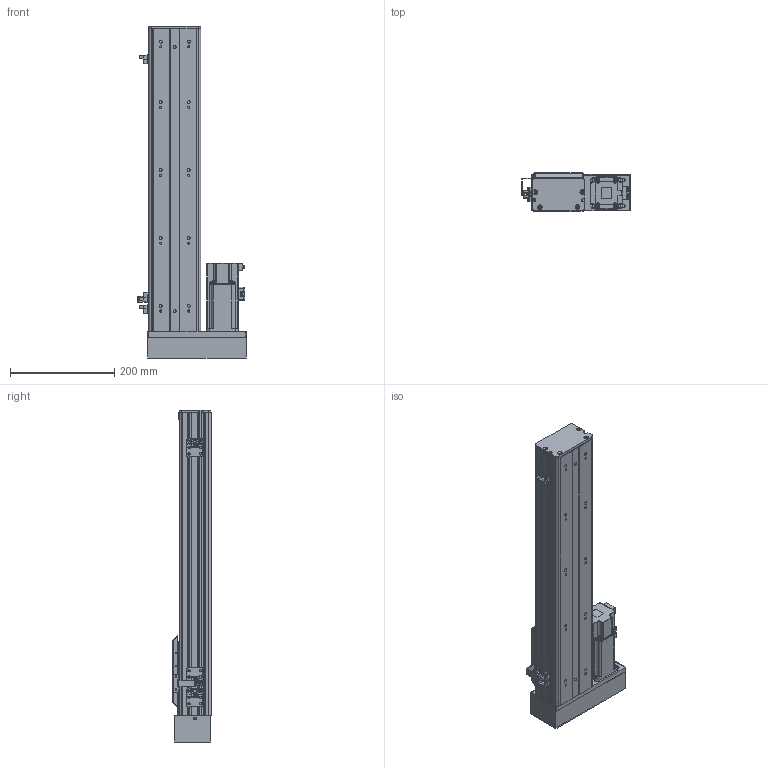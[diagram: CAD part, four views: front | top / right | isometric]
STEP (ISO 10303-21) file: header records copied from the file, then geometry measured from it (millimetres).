
FILE_DESCRIPTION (( 'STEP AP203' ), '1' );
FILE_NAME ('BOSW100-400-1610-1P-LM-M400W-O-S3（方程式2016）.step', '2020-10-10T06:54:27', ( '' ), ( '' ), 'SwSTEP 2.0', 'SolidWorks 2016', '' );
FILE_SCHEMA (( 'CONFIG_CONTROL_DESIGN' ));
Length unit declared in the file: millimetre
Products named in the file (14): 俋境嫖覜嘐隅啣; BOSW-100-綴裔啣; BOSW&TW-100-詩湍揤沭(陔賦凳); BOSW-100-1P-DM-宽轨-侧板-400客户图纸; BOSW&TW-100-1P-賑雄釱欶; boS-100-LM&RM-三菱M400W马达板-宽轨; BOSW-100-1P-DM-400諦誧芞; AIMS(W)-100-LM&RM-肮祭謫欶; BOSW-100-1P-DM-宽轨-钢带-400客户图纸; BOSW&TW-100-俋离覜茼え; S400W(SMA-L040); BOSW100-400-1610-1P-LM-M400W-O-S3（方程式2016）; 新结构AIMSW-100-1P-宽&高轨共用-滑动座上组件; 放大器内置U型微型光电传感器PM-L65
Assembly tree (19 placements, depth 2):
  BOSW100-400-1610-1P-LM-M400W-O-S3（方程式2016）
    BOSW-100-1P-DM-400諦誧芞
    BOSW-100-綴裔啣
    新结构AIMSW-100-1P-宽&高轨共用-滑动座上组件
    S400W(SMA-L040)
    BOSW&TW-100-詩湍揤沭(陔賦凳)  x2
    BOSW&TW-100-1P-賑雄釱欶
    BOSW&TW-100-俋离覜茼え
    俋境嫖覜嘐隅啣  x3
    放大器内置U型微型光电传感器PM-L65  x3
    BOSW-100-1P-DM-宽轨-侧板-400客户图纸  x2
    BOSW-100-1P-DM-宽轨-钢带-400客户图纸
    AIMS(W)-100-LM&RM-肮祭謫欶
    boS-100-LM&RM-三菱M400W马达板-宽轨
Bounding box: 207.9 x 75 x 636 mm (x, y, z)
Volume: 1539929.8 mm3; surface area: 745562.6 mm2
Topology: 19 solids, 20 shells, 2507 faces, 6609 edges, 4215 vertices
Faces by surface type: plane 1239, cylinder 782, bspline 271, cone 167, torus 36, sphere 12
Entity records: 68576 total; most frequent: CARTESIAN_POINT 20626, ORIENTED_EDGE 9758, DIRECTION 9435, EDGE_CURVE 4879, AXIS2_PLACEMENT_3D 3335, VERTEX_POINT 3117, VECTOR 2765, LINE 2765
